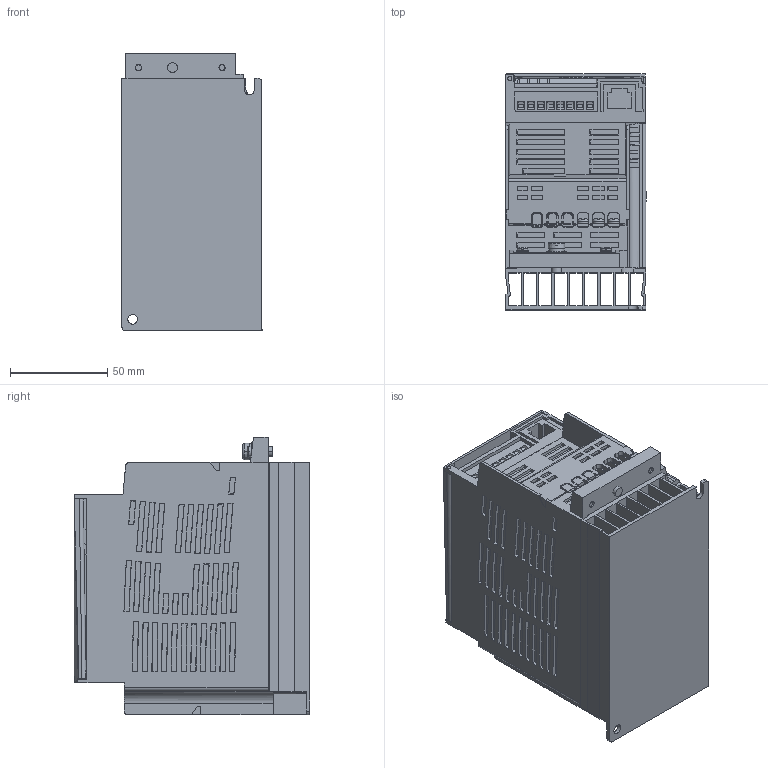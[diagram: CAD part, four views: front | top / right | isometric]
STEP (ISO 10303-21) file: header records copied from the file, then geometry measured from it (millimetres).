
FILE_DESCRIPTION((''),'2;1');
FILE_NAME('N3_S1_B_1_ASM','2026-03-23T10:24:16',('sesa57331'),('Schneider-Electric'),'CREO PARAMETRIC BY PTC INC, 2025093','CREO PARAMETRIC BY PTC INC, 2025093','');
FILE_SCHEMA(('AP242_MANAGED_MODEL_BASED_3D_ENGINEERING_MIM_LF { 1 0 10303 442 1 1 4 }'));
Products named in the file (19): DRIVE_S1_2; CONTROL_TERM_COVER; TERM_COVER_S1_1; TERM_COVER_S1_2; SCREW_M4_S1-48178; SCREW_M4_S1-49014; SCREW_M5_S1; SHUNT-BAR_S1; TERM_SCREW_S1-51654; TERM_SCREW_S1-52594; TERM_SCREW_S1-53534; TERM_SCREW_S1-54474; TERM_SCREW_S1-55414; TERM_SCREW_S1-56354; TERM_SCREW_S1-57294; TERM_SCREW_S1-58234; TERM_SCREW_S1-59174; TERM_SCREW_S1-60114; N3_S1_B_1_ASM
Assembly tree (18 placements, depth 2):
  N3_S1_B_1_ASM
    DRIVE_S1_2
    CONTROL_TERM_COVER
    TERM_COVER_S1_1
    TERM_COVER_S1_2
    SCREW_M4_S1-48178
    SCREW_M4_S1-49014
    SCREW_M5_S1
    SHUNT-BAR_S1
    TERM_SCREW_S1-51654
    TERM_SCREW_S1-52594
    TERM_SCREW_S1-53534
    TERM_SCREW_S1-54474
    TERM_SCREW_S1-55414
    TERM_SCREW_S1-56354
    TERM_SCREW_S1-57294
    TERM_SCREW_S1-58234
    TERM_SCREW_S1-59174
    TERM_SCREW_S1-60114
Bounding box: 72.05 x 121.4 x 142.95 mm (x, y, z)
Volume: 822612.4 mm3; surface area: 169576.4 mm2
Topology: 18 solids, 18 shells, 1928 faces, 5380 edges, 3675 vertices
Faces by surface type: plane 1456, cylinder 209, cone 187, sphere 40, torus 29, bspline 7
Entity records: 78100 total; most frequent: CARTESIAN_POINT 14156, ORIENTED_EDGE 10760, DIRECTION 9475, EDGE_CURVE 5380, VERTEX_POINT 3675, VECTOR 3673, LINE 3673, AXIS2_PLACEMENT_3D 2901
